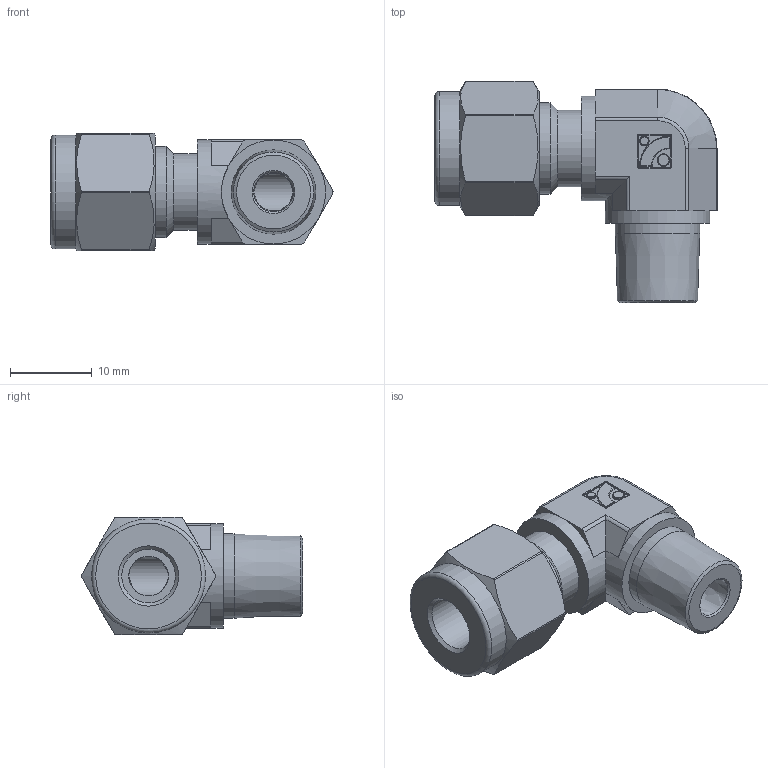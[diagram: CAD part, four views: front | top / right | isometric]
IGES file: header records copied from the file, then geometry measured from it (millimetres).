
Global section: file name: No Iges File Name specified; native system: Autodesk Inventor 2012; preprocessor: AutoDesk Inventor Iges Exporter R2012; author: 硅己绕,,1; organization: 1; date: 20150702.174013; units: millimetre
Bounding box: 34.4 x 27 x 14.3 mm (x, y, z)
Volume: 4683.8 mm3; surface area: 3003.4 mm2
Topology: 1 solids, 1 shells, 128 faces, 287 edges, 166 vertices
Faces by surface type: plane 42, cylinder 35, revolution 28, torus 12, cone 7, sphere 4
Full cylindrical faces by diameter (mm): 1.08 x1, 1.44 x1, 9.3 x1, 10.28 x1, 11.112 x1, 12.7 x2, 13.9 x1
